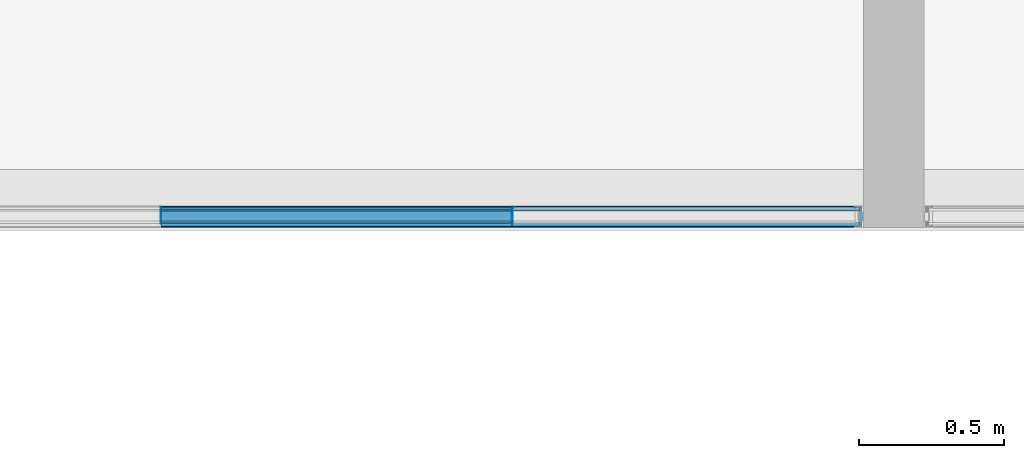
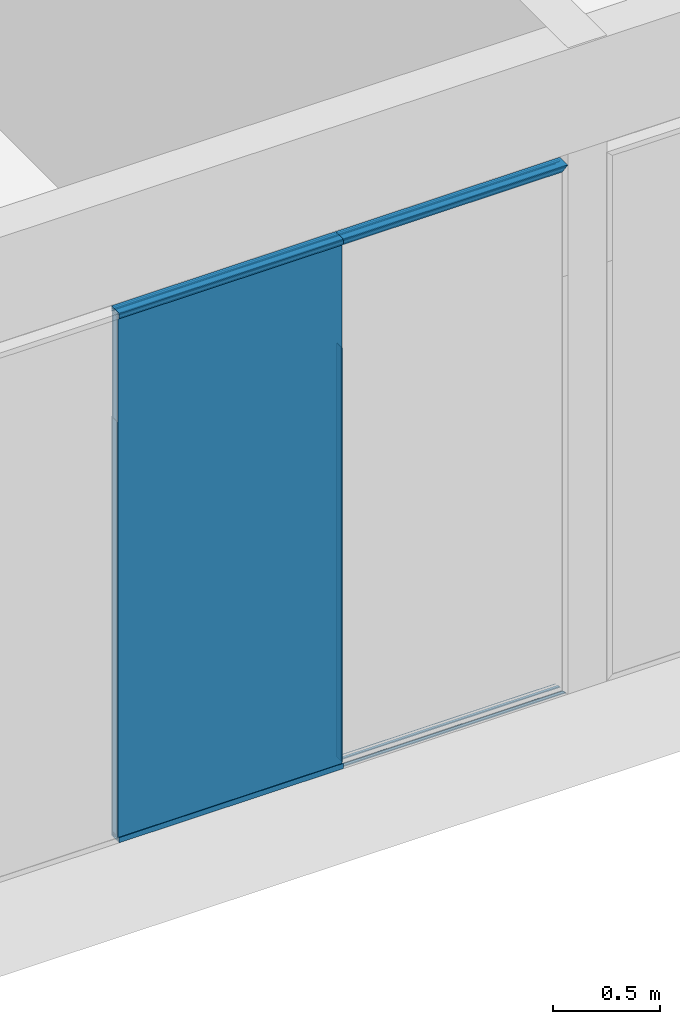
# One storey, part 43 of 387: 13 building element parts, 8 elements without a shape of their own.
"""IFC2X3 building model written with IfcOpenShell, lengths in millimetres."""

import ifcopenshell
import ifcopenshell.guid

model = None  # the IFC model being written
_history = None  # IfcOwnerHistory: only IFC2X3 demands one
_inside = {}  # id of a spatial element -> (the spatial element, [elements in it])
_under = {}  # id of a project, library or spatial element -> (it, [spatial elements below it])
_declared = {}  # id of a project -> (the project, [libraries it declares])
_typed = {}  # id of a type object -> (the type object, [elements of that type])
_made_of = {}  # id of a material, layer set ... -> (it, [elements and type objects made of it])


def new_model(schema):
    """Start an empty IFC model of exactly this schema.

    Asked for "IFC4X3", IfcOpenShell would pick the latest addendum, in which some entities
    have other attributes; the version numbers below select the first issue.
    IFC2X3 requires an IfcOwnerHistory on every rooted entity: one is made here for all.
    """
    global model, _history
    if schema == "IFC4X3":
        model = ifcopenshell.file(schema_version=(4, 3, 0, 0))
    else:
        model = ifcopenshell.file(schema=schema)
    _inside.clear()
    _under.clear()
    _declared.clear()
    _typed.clear()
    _made_of.clear()
    _history = None
    if model.schema == "IFC2X3":
        org = make("IfcOrganization", Name="unknown")
        user = make(
            "IfcPersonAndOrganization",
            ThePerson=make("IfcPerson", FamilyName="unknown"),
            TheOrganization=org,
        )
        app = make(
            "IfcApplication",
            ApplicationDeveloper=org,
            Version="unknown",
            ApplicationFullName="unknown",
            ApplicationIdentifier="unknown",
        )
        _history = make(
            "IfcOwnerHistory",
            OwningUser=user,
            OwningApplication=app,
            ChangeAction="ADDED",
            CreationDate=0,
        )
    return model


def make(cls, **values):
    """One entity of the class cls with the attributes given. An attribute that is None is left unset."""
    return model.create_entity(
        cls, **{name: value for name, value in values.items() if value is not None}
    )


def entity(cls, *values):
    """Any entity or typed value of the class cls, its attributes in the order of the schema. None: left unset."""
    e = model.create_entity(cls)
    for i, value in enumerate(values):
        if value is not None:
            e[i] = value
    return e


def rooted(cls, **values):
    """An entity with a GlobalId (a new one), such as an element, a storey or a relation."""
    return make(cls, GlobalId=ifcopenshell.guid.new(), OwnerHistory=_history, **values)


def si_unit(unit_type, name, prefix=None):
    """IfcSIUnit, for example si_unit("LENGTHUNIT", "METRE", prefix="MILLI")."""
    return make("IfcSIUnit", UnitType=unit_type, Prefix=prefix, Name=name)


def converted_unit(unit_type, name, factor, base, dimensions=None, offset=None):
    """IfcConversionBasedUnit, such as the inch: factor (a typed value) times the base unit."""
    return make(
        "IfcConversionBasedUnit"
        if offset is None
        else "IfcConversionBasedUnitWithOffset",
        ConversionOffset=offset,
        Dimensions=None
        if dimensions is None
        else entity("IfcDimensionalExponents", *dimensions),
        UnitType=unit_type,
        Name=name,
        ConversionFactor=make(
            "IfcMeasureWithUnit", ValueComponent=factor, UnitComponent=base
        ),
    )


def derived_unit(unit_type, elements):
    """IfcDerivedUnit: a product of units, each with its exponent."""
    return make(
        "IfcDerivedUnit",
        Elements=[
            make("IfcDerivedUnitElement", Unit=unit, Exponent=power)
            for unit, power in elements
        ],
        UnitType=unit_type,
    )


def money_unit(currency):
    """IfcMonetaryUnit."""
    return make("IfcMonetaryUnit", Currency=currency)


def assignment(units):
    """IfcUnitAssignment: the units of a project."""
    return None if units is None else make("IfcUnitAssignment", Units=units)


def point(xyz):
    """IfcCartesianPoint."""
    return None if xyz is None else make("IfcCartesianPoint", Coordinates=xyz)


def direction(xyz):
    """IfcDirection."""
    return None if xyz is None else make("IfcDirection", DirectionRatios=xyz)


def frame(location, z_axis=None, x_axis=None):
    """IfcAxis2Placement3D, a coordinate frame: its origin and axes. An axis left out is left unset."""
    return make(
        "IfcAxis2Placement3D",
        Location=point(location),
        Axis=direction(z_axis),
        RefDirection=direction(x_axis),
    )


def origin_with_axes():
    """The frame at (0, 0, 0) with the z axis (0, 0, 1) and the x axis (1, 0, 0) written out."""
    return frame((0.0, 0.0, 0.0), z_axis=(0.0, 0.0, 1.0), x_axis=(1.0, 0.0, 0.0))


def place(relative_to, where):
    """IfcLocalPlacement: puts the frame where relative to a parent placement (None: the world)."""
    return make(
        "IfcLocalPlacement", PlacementRelTo=relative_to, RelativePlacement=where
    )


def context(
    kind, dimensions, precision=None, world=None, true_north=None, identifier=None
):
    """IfcGeometricRepresentationContext, for example the 3D "Model" context."""
    return make(
        "IfcGeometricRepresentationContext",
        ContextIdentifier=identifier,
        ContextType=kind,
        CoordinateSpaceDimension=dimensions,
        Precision=precision,
        WorldCoordinateSystem=world,
        TrueNorth=true_north,
    )


def subcontext(parent, identifier, kind, view, scale=None):
    """IfcGeometricRepresentationSubContext, for example "Body" below "Model"."""
    return make(
        "IfcGeometricRepresentationSubContext",
        ContextIdentifier=identifier,
        ContextType=kind,
        ParentContext=parent,
        TargetScale=scale,
        TargetView=view,
    )


def project(units=None, contexts=None):
    """IfcProject with its units and contexts."""
    return rooted(
        "IfcProject",
        Name="project",
        RepresentationContexts=contexts,
        UnitsInContext=assignment(units),
    )


def spatial(cls, under=None, at=None, **own):
    """A site, building, storey or space (cls), placed at a placement, below another one or the project."""
    s = rooted(cls, ObjectPlacement=at, **own)
    if under is not None:
        _under.setdefault(under.id(), (under, []))[1].append(s)
    return s


def faces_of(points, faces, orient=None, outer=None):
    """IfcFace entities. A face is a list of loops; a loop is a list of indices into points, from 0.

    orient and outer hold one flag for each loop. By default every Orientation is true, the
    first loop of a face is its IfcFaceOuterBound and the others are IfcFaceBound.
    """
    made = []
    for i, loops in enumerate(faces):
        bounds = []
        for j, loop in enumerate(loops):
            is_outer = j == 0 if outer is None else outer[i][j]
            bounds.append(
                make(
                    "IfcFaceOuterBound" if is_outer else "IfcFaceBound",
                    Bound=make("IfcPolyLoop", Polygon=[points[k] for k in loop]),
                    Orientation=True if orient is None else orient[i][j],
                )
            )
        made.append(make("IfcFace", Bounds=bounds))
    return made


def faceted_brep(points, faces, orient=None, outer=None, voids=None):
    """IfcFacetedBrep: a solid bounded by flat faces; with voids (closed shells), ...WithVoids."""
    shared = [point(p) for p in points]
    hull = make("IfcClosedShell", CfsFaces=faces_of(shared, faces, orient, outer))
    if voids is None:
        return make("IfcFacetedBrep", Outer=hull)
    return make(
        "IfcFacetedBrepWithVoids",
        Outer=hull,
        Voids=[
            make(cls, CfsFaces=faces_of(shared, fs, o, b)) for cls, fs, o, b in voids
        ],
    )


def shape(context_of_items, identifier, shape_type, items):
    """IfcShapeRepresentation: the items that make up one representation, for example the "Body"."""
    return make(
        "IfcShapeRepresentation",
        ContextOfItems=context_of_items,
        RepresentationIdentifier=identifier,
        RepresentationType=shape_type,
        Items=items,
    )


def source(mapping_origin, context_of_items, identifier, shape_type, items):
    """IfcRepresentationMap: a shape defined once, which mapped items show again and again."""
    return make(
        "IfcRepresentationMap",
        MappingOrigin=mapping_origin,
        MappedRepresentation=shape(context_of_items, identifier, shape_type, items),
    )


def transform(
    local_origin,
    x_axis=None,
    y_axis=None,
    z_axis=None,
    scale=None,
    scale2=None,
    scale3=None,
    uniform=True,
):
    """IfcCartesianTransformationOperator3D, or its non-uniform kind. x_axis, y_axis, z_axis: its Axis1, 2, 3."""
    if uniform:
        return make(
            "IfcCartesianTransformationOperator3D",
            Axis1=direction(x_axis),
            Axis2=direction(y_axis),
            LocalOrigin=point(local_origin),
            Scale=scale,
            Axis3=direction(z_axis),
        )
    return make(
        "IfcCartesianTransformationOperator3DnonUniform",
        Axis1=direction(x_axis),
        Axis2=direction(y_axis),
        LocalOrigin=point(local_origin),
        Scale=scale,
        Axis3=direction(z_axis),
        Scale2=scale2,
        Scale3=scale3,
    )


def mapped(mapping_source, mapping_target):
    """IfcMappedItem: shows the shape of a source again, moved by a transform."""
    return make(
        "IfcMappedItem", MappingSource=mapping_source, MappingTarget=mapping_target
    )


def material(Name=None, Category=None):
    """IfcMaterial."""
    return make("IfcMaterial", Name=Name, Category=Category)


def made_of(thing, what):
    """Note that an element or type object is made of a material, layer set ...; save() writes the relation."""
    if what is not None:
        _made_of.setdefault(what.id(), (what, []))[1].append(thing)
    return thing


def type_object(cls, material=None, **own):
    """A type object (cls), such as IfcWallType, which elements share."""
    return made_of(rooted(cls, **own), material)


def element(
    cls,
    number,
    at=None,
    inside=None,
    cuts=None,
    type_object=None,
    material=None,
    context=None,
    identifier="Body",
    shape_type=None,
    held_by="IfcProductDefinitionShape",
    body=None,
    shapes=None,
    **own,
):
    """One element of the class cls, such as IfcWall. Its Tag is "e" and its number.

    at: its placement. inside: the storey or other place that contains it. cuts: it is an
    opening in that element (IfcRelVoidsElement). A single representation is given by context,
    identifier, shape_type and body (its items); several are given by shapes. held_by: the class
    of the entity that holds the representations. save() writes the other relations.
    """
    e = rooted(cls, Tag="e%d" % number, ObjectPlacement=at, **own)
    if body is not None:
        shapes = [shape(context, identifier, shape_type, body)]
    if shapes is not None:
        e.Representation = make(held_by, Representations=shapes)
    if inside is not None:
        _inside.setdefault(inside.id(), (inside, []))[1].append(e)
    if cuts is not None:
        rooted(
            "IfcRelVoidsElement", RelatingBuildingElement=cuts, RelatedOpeningElement=e
        )
    if type_object is not None:
        _typed.setdefault(type_object.id(), (type_object, []))[1].append(e)
    return made_of(e, material)


def aggregate(whole, parts):
    """IfcRelAggregates: a whole, such as a stair, and the parts it consists of."""
    return rooted("IfcRelAggregates", RelatingObject=whole, RelatedObjects=parts)


def save(model, path):
    """Write the relations noted so far, then the file.

    IfcRelAggregates (storeys below a building ...), IfcRelContainedInSpatialStructure (elements
    in a storey), IfcRelDefinesByType, IfcRelAssociatesMaterial and IfcRelDeclares: one each for
    every whole, place, type object, material and project.
    """
    for whole, parts in _under.values():
        aggregate(whole, parts)
    for where, things in _inside.values():
        rooted(
            "IfcRelContainedInSpatialStructure",
            RelatedElements=things,
            RelatingStructure=where,
        )
    for kind, things in _typed.values():
        rooted("IfcRelDefinesByType", RelatedObjects=things, RelatingType=kind)
    for what, things in _made_of.values():
        rooted("IfcRelAssociatesMaterial", RelatedObjects=things, RelatingMaterial=what)
    for by, libraries in _declared.values():
        rooted("IfcRelDeclares", RelatingContext=by, RelatedDefinitions=libraries)
    model.write(path)


model = new_model("IFC2X3")

# Units and contexts
model_context = context("Model", 3, precision=0.01, world=origin_with_axes(), true_north=direction((0.0, 1.0)))
body_context = subcontext(model_context, "Body", "Model", "MODEL_VIEW")
ifc_project = project(units=[si_unit("LENGTHUNIT", "METRE", prefix="MILLI"), si_unit("AREAUNIT", "SQUARE_METRE"), si_unit("VOLUMEUNIT", "CUBIC_METRE"), converted_unit("PLANEANGLEUNIT", "DEGREE", entity("IfcPlaneAngleMeasure", 0.0174532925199), si_unit("PLANEANGLEUNIT", "RADIAN"), dimensions=[0, 0, 0, 0, 0, 0, 0]), si_unit("SOLIDANGLEUNIT", "STERADIAN"), money_unit("EUR"), converted_unit("TIMEUNIT", "Year", entity("IfcTimeMeasure", 31556926.0), si_unit("TIMEUNIT", "SECOND"), dimensions=[0, 0, 1, 0, 0, 0, 0]), si_unit("MASSUNIT", "GRAM", prefix="KILO"), si_unit("THERMODYNAMICTEMPERATUREUNIT", "DEGREE_CELSIUS"), si_unit("LUMINOUSINTENSITYUNIT", "LUMEN"), si_unit("ENERGYUNIT", "JOULE", prefix="MEGA"), derived_unit("THERMALCONDUCTANCEUNIT", [(si_unit("POWERUNIT", "WATT"), 1), (si_unit("LENGTHUNIT", "METRE"), -1), (si_unit("THERMODYNAMICTEMPERATUREUNIT", "KELVIN"), -1)]), derived_unit("SPECIFICHEATCAPACITYUNIT", [(si_unit("ENERGYUNIT", "JOULE"), 1), (si_unit("MASSUNIT", "GRAM", prefix="KILO"), -1), (si_unit("THERMODYNAMICTEMPERATUREUNIT", "KELVIN"), -1)]), derived_unit("MASSDENSITYUNIT", [(si_unit("MASSUNIT", "GRAM", prefix="KILO"), 1), (si_unit("VOLUMEUNIT", "CUBIC_METRE"), -1)])], contexts=[model_context])

# Site, building, storey
site_placement = place(None, origin_with_axes())
site = spatial("IfcSite", under=ifc_project, at=site_placement, Name="Puškini 31, Narva", CompositionType="ELEMENT")
building_placement = place(site_placement, origin_with_axes())
building = spatial("IfcBuilding", under=site, at=building_placement, Name="Narva Riigigümnaasium", CompositionType="ELEMENT")
storey_placement = place(building_placement, frame((0.0, 0.0, 2640.0), z_axis=(0.0, 0.0, 1.0), x_axis=(1.0, 0.0, 0.0)))
storey = spatial("IfcBuildingStorey", under=building, at=storey_placement, Name="2.korrus +2.64", CompositionType="ELEMENT", Elevation=2640.0)

# Curtain wall, members, building element parts, plate
curtain_wall_type = type_object("IfcCurtainWallType", Name="Curtain Wall Type", PredefinedType="NOTDEFINED")
curtain_wall_placement = place(storey_placement, frame((37052.5000014, 163542.000002, -0.000124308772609), z_axis=(0.0, 0.0, 1.0), x_axis=(1.0, 0.0, 0.0)))
curtain_wall = element("IfcCurtainWall", 1, at=curtain_wall_placement, inside=storey, type_object=curtain_wall_type, Name="G-SKLF-48")
member_type_1 = type_object("IfcMemberType", Name="Siseklaasfassaad - Raam n2htamatu 3 x 29", PredefinedType="MULLION")
member_1_placement = place(curtain_wall_placement, frame((607.5, 0.0, 0.0), z_axis=(0.0, 0.0, 1.0), x_axis=(-1.0, 0.0, 0.0)))
member_1 = element("IfcMember", 2, at=member_1_placement, type_object=member_type_1, Name="Frame-Siseklaasf-073", ObjectType="MULLION")
ifc_material_1 = material(Name="Klaas")
shared_shape_1 = source(origin_with_axes(), body_context, "Body", "Brep", [
    faceted_brep([(-1.5000138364, 20.0064497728, 30.0000193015), (1.4999861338, 20.0064497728, 30.0000193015), (1.4999861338, 20.0064497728, 2400.00012431), (-1.5000138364, 20.0064497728, 2400.00012431), (-1.5000138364, 29.0064496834, 30.0000193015), (1.4999861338, 29.0064496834, 30.0000193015), (1.4999861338, 29.0064496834, 2400.00012431), (-1.5000138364, 29.0064496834, 2400.00012431)], [[[0, 1, 2, 3]], [[1, 0, 4, 5]], [[1, 5, 6, 2]], [[2, 6, 7, 3]], [[4, 0, 3, 7]], [[5, 4, 7, 6]]]),
    faceted_brep([(1.4999861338, -28.9935503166, 30.0000193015), (1.4999861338, -19.993550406, 30.0000193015), (1.4999861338, -19.993550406, 2400.00012431), (1.4999861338, -28.9935503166, 2400.00012431), (-1.5000138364, -28.9935503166, 30.0000193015), (-1.5000138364, -19.993550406, 30.0000193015), (-1.5000138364, -19.993550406, 2400.00012431), (-1.5000138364, -28.9935503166, 2400.00012431)], [[[0, 1, 2, 3]], [[1, 0, 4, 5]], [[1, 5, 6, 2]], [[2, 6, 7, 3]], [[4, 0, 3, 7]], [[5, 4, 7, 6]]]),
])
building_element_part_1_placement = place(member_1_placement, origin_with_axes())
building_element_part_1 = element("IfcBuildingElementPart", 3, at=building_element_part_1_placement, material=ifc_material_1, Name="Klaas", context=body_context, shape_type="MappedRepresentation", body=[
    mapped(shared_shape_1, transform((0.0, 0.0, 0.0), x_axis=(-1.0, 0.0, 0.0), y_axis=(0.0, -1.0, 0.0), z_axis=(0.0, 0.0, 1.0))),
])
member_2_placement = place(curtain_wall_placement, frame((1822.5, 0.0, 0.0), z_axis=(0.0, 0.0, 1.0), x_axis=(-1.0, 0.0, 0.0)))
member_2 = element("IfcMember", 4, at=member_2_placement, type_object=member_type_1, Name="Frame-Siseklaasf-083", ObjectType="MULLION")
building_element_part_2_placement = place(member_2_placement, origin_with_axes())
building_element_part_2 = element("IfcBuildingElementPart", 5, at=building_element_part_2_placement, material=ifc_material_1, Name="Klaas", context=body_context, shape_type="MappedRepresentation", body=[
    mapped(shared_shape_1, transform((0.0, 0.0, 0.0), x_axis=(-1.0, 0.0, 0.0), y_axis=(0.0, -1.0, 0.0), z_axis=(0.0, 0.0, 1.0))),
])
ifc_material_2 = material(Name="VKR-06_Õhkvahe")
shared_shape_2 = source(origin_with_axes(), body_context, "Body", "Brep", [
    faceted_brep([(1.4999861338, -19.9935503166, 30.0000193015), (1.4999861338, 20.0064496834, 30.0000193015), (1.4999861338, 20.0064496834, 2400.00012431), (1.4999861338, -19.9935503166, 2400.00012431), (-1.5000138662, -19.9935503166, 30.0000193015), (-1.5000138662, 20.0064496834, 30.0000193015), (-1.5000138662, 20.0064496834, 2400.00012431), (-1.5000138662, -19.9935503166, 2400.00012431)], [[[0, 1, 2, 3]], [[1, 0, 4, 5]], [[1, 5, 6, 2]], [[2, 6, 7, 3]], [[4, 0, 3, 7]], [[5, 4, 7, 6]]]),
])
building_element_part_3_placement = place(member_1_placement, origin_with_axes())
building_element_part_3 = element("IfcBuildingElementPart", 6, at=building_element_part_3_placement, material=ifc_material_2, Name="VKR-06_Õhkvahe", context=body_context, shape_type="MappedRepresentation", body=[
    mapped(shared_shape_2, transform((0.0, 0.0, 0.0), x_axis=(-1.0, 0.0, 0.0), y_axis=(0.0, -1.0, 0.0), z_axis=(0.0, 0.0, 1.0))),
])
aggregate(member_1, [building_element_part_1, building_element_part_3])
building_element_part_4_placement = place(member_2_placement, origin_with_axes())
building_element_part_4 = element("IfcBuildingElementPart", 7, at=building_element_part_4_placement, material=ifc_material_2, Name="VKR-06_Õhkvahe", context=body_context, shape_type="MappedRepresentation", body=[
    mapped(shared_shape_2, transform((0.0, 0.0, 0.0), x_axis=(-1.0, 0.0, 0.0), y_axis=(0.0, -1.0, 0.0), z_axis=(0.0, 0.0, 1.0))),
])
aggregate(member_2, [building_element_part_2, building_element_part_4])
member_type_2 = type_object("IfcMemberType", Name="Boundary Frame 30 x 42", PredefinedType="MULLION")
member_3_placement = place(curtain_wall_placement, frame((1822.5, 0.0, 3030.00007225), z_axis=(-1.0, 0.0, 0.0), x_axis=(0.0, 0.0, -1.0)))
member_3 = element("IfcMember", 8, at=member_3_placement, type_object=member_type_2, Name="G-SKLF-73-raam", ObjectType="MULLION")
ifc_material_3 = material(Name="Klaasvill")
shared_shape_3 = source(origin_with_axes(), body_context, "Body", "Brep", [
    faceted_brep([(-7.49999990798, 15.000000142, -2.079791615e-07), (-7.49999990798, 15.000000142, 1215.00000021), (-13.8499999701, 15.000000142, 1215.00000021), (-13.8499999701, 15.000000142, -2.079791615e-07), (-7.49999990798, 29.0161444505, -2.079791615e-07), (-7.49999990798, 29.0161444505, 1215.00000021), (-13.8499999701, 29.0161444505, 1215.00000021), (-13.8499999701, 29.0161444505, -2.079791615e-07)], [[[0, 1, 2, 3]], [[4, 5, 1, 0]], [[1, 5, 6, 2]], [[3, 2, 6, 7]], [[0, 3, 7, 4]], [[7, 6, 5, 4]]]),
    faceted_brep([(-24.987414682, 29.0161444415, -2.079791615e-07), (-24.987414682, 29.0161444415, 1215.00000021), (-25.004489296, 27.0307503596, 1215.00000021), (-25.004489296, 27.0307503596, -2.079791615e-07), (-28.5126239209, 29.0161444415, -2.079791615e-07), (-28.5126239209, 29.0161444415, 1215.00000021), (-28.7655837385, 28.0385325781, 1215.00000021), (-28.4955493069, 27.0307503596, 1215.00000021), (-27.75780152, 26.2930025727, 1215.00000021), (-26.7500193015, 26.0229681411, 1215.00000021), (-25.742237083, 26.2930025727, 1215.00000021), (-25.742237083, 26.2930025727, -2.079791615e-07), (-26.7500193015, 26.0229681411, -2.079791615e-07), (-27.75780152, 26.2930025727, -2.079791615e-07), (-28.4955493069, 27.0307503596, -2.079791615e-07), (-28.7655837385, 28.0385325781, -2.079791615e-07)], [[[0, 1, 2, 3]], [[4, 5, 1, 0]], [[1, 5, 6, 7, 8, 9, 10, 2]], [[3, 2, 10, 11]], [[0, 3, 11, 12, 13, 14, 15, 4]], [[15, 6, 5, 4]], [[14, 7, 6, 15]], [[13, 8, 7, 14]], [[12, 9, 8, 13]], [[11, 10, 9, 12]]]),
    faceted_brep([(-7.49999990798, -24.9999997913, -2.079791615e-07), (-7.49999990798, -24.9999997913, 1215.00000021), (-7.49999990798, -39.0161445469, 1215.00000021), (-7.49999990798, -39.0161445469, -2.079791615e-07), (-13.8499999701, -24.9999997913, -2.079791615e-07), (-13.8499999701, -24.9999997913, 1215.00000021), (-13.8499999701, -39.0161445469, 1215.00000021), (-13.8499999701, -39.0161445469, -2.079791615e-07)], [[[0, 1, 2, 3]], [[4, 5, 1, 0]], [[1, 5, 6, 2]], [[3, 2, 6, 7]], [[0, 3, 7, 4]], [[7, 6, 5, 4]]]),
    faceted_brep([(-25.004489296, -37.0307503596, -2.079791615e-07), (-25.004489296, -37.0307503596, 1215.00000021), (-24.987414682, -39.0161444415, 1215.00000021), (-24.987414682, -39.0161444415, -2.079791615e-07), (-25.742237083, -36.2930025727, -2.079791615e-07), (-25.742237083, -36.2930025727, 1215.00000021), (-26.7500193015, -36.0229681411, 1215.00000021), (-27.75780152, -36.2930025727, 1215.00000021), (-28.4955493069, -37.0307503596, 1215.00000021), (-28.7655837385, -38.0385325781, 1215.00000021), (-28.5126239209, -39.0161444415, 1215.00000021), (-28.5126239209, -39.0161444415, -2.079791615e-07), (-28.7655837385, -38.0385325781, -2.079791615e-07), (-28.4955493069, -37.0307503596, -2.079791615e-07), (-27.75780152, -36.2930025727, -2.079791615e-07), (-26.7500193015, -36.0229681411, -2.079791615e-07)], [[[0, 1, 2, 3]], [[4, 5, 1, 0]], [[1, 5, 6, 7, 8, 9, 10, 2]], [[3, 2, 10, 11]], [[0, 3, 11, 12, 13, 14, 15, 4]], [[15, 6, 5, 4]], [[14, 7, 6, 15]], [[13, 8, 7, 14]], [[12, 9, 8, 13]], [[11, 10, 9, 12]]]),
])
building_element_part_5_placement = place(member_3_placement, origin_with_axes())
building_element_part_5 = element("IfcBuildingElementPart", 9, at=building_element_part_5_placement, material=ifc_material_3, Name="Klaasvill", context=body_context, shape_type="MappedRepresentation", body=[
    mapped(shared_shape_3, transform((0.0, 0.0, 0.0), x_axis=(-1.0, 0.0, 0.0), y_axis=(0.0, -1.0, 0.0), z_axis=(0.0, 0.0, 1.0))),
])
member_4_placement = place(curtain_wall_placement, frame((607.5, 0.0, 0.0), z_axis=(1.0, 0.0, 0.0), x_axis=(0.0, 0.0, 1.0)))
member_4 = element("IfcMember", 10, at=member_4_placement, type_object=member_type_2, Name="G-SKLF-68-raam", ObjectType="MULLION")
building_element_part_6_placement = place(member_4_placement, origin_with_axes())
building_element_part_6 = element("IfcBuildingElementPart", 11, at=building_element_part_6_placement, material=ifc_material_3, Name="Klaasvill", context=body_context, shape_type="MappedRepresentation", body=[
    mapped(shared_shape_3, transform((0.0, 0.0, 0.0), x_axis=(-1.0, 0.0, 0.0), y_axis=(0.0, -1.0, 0.0), z_axis=(0.0, 0.0, 1.0))),
])
ifc_material_4 = material(Name="Teras RAL7012")
shared_shape_4 = source(origin_with_axes(), body_context, "Body", "Brep", [
    faceted_brep([(0.0, -22.0000000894, -2.079791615e-07), (0.0, -22.0000000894, 1215.00000021), (-29.5999996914, -22.0000000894, 1215.00000021), (-29.5999996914, -22.0000000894, -2.079791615e-07), (0.0, 12.0000000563, -2.079791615e-07), (0.0, 12.0000000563, 1215.00000021), (-29.5999996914, 12.0000000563, 1215.00000021), (-1.9999999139, 10.0000001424, 1215.00000021), (-1.9999999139, -20.0000001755, 1215.00000021), (-18.7999996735, -20.0000001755, 1215.00000021), (-18.7999996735, 10.0000001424, 1215.00000021), (-29.5999996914, 12.0000000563, -2.079791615e-07), (-1.9999999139, 10.0000001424, -2.079791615e-07), (-18.7999996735, 10.0000001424, -2.079791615e-07), (-18.7999996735, -20.0000001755, -2.079791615e-07), (-1.9999999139, -20.0000001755, -2.079791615e-07)], [[[0, 1, 2, 3]], [[4, 5, 1, 0]], [[1, 5, 6, 2], [7, 8, 9, 10]], [[3, 2, 6, 11]], [[0, 3, 11, 4], [12, 13, 14, 15]], [[11, 6, 5, 4]], [[15, 8, 7, 12]], [[14, 9, 8, 15]], [[13, 10, 9, 14]], [[12, 7, 10, 13]]]),
    faceted_brep([(0.0, 12.0, -2.079791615e-07), (0.0, 12.0, 1215.00000021), (-29.5999996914, 12.0000000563, 1215.00000021), (-29.5999996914, 12.0000000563, -2.079791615e-07), (0.0, 32.0, -2.079791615e-07), (0.0, 32.0, 1215.00000021), (-30.0000193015, 32.0, 1215.00000021), (-30.0000193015, 29.0161444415, 1215.00000021), (-28.5126239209, 29.0161444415, 1215.00000021), (-24.987414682, 29.0161444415, 1215.00000021), (-13.8499999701, 29.0161444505, 1215.00000021), (-7.49999999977, 29.0161444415, 1215.00000021), (-7.49999999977, 15.0, 1215.00000021), (-13.8499999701, 15.000000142, 1215.00000021), (-30.0000193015, 15.0, 1215.00000021), (-30.0000193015, 12.0, 1215.00000021), (-30.0000193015, 12.0, -2.079791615e-07), (-30.0000193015, 15.0, -2.079791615e-07), (-13.8499999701, 15.000000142, -2.079791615e-07), (-7.49999999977, 15.0, -2.079791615e-07), (-7.49999999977, 29.0161444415, -2.079791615e-07), (-13.8499999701, 29.0161444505, -2.079791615e-07), (-24.987414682, 29.0161444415, -2.079791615e-07), (-28.5126239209, 29.0161444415, -2.079791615e-07), (-30.0000193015, 29.0161444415, -2.079791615e-07), (-30.0000193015, 32.0, -2.079791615e-07)], [[[0, 1, 2, 3]], [[4, 5, 1, 0]], [[1, 5, 6, 7, 8, 9, 10, 11, 12, 13, 14, 15, 2]], [[3, 2, 15, 16]], [[0, 3, 16, 17, 18, 19, 20, 21, 22, 23, 24, 25, 4]], [[25, 6, 5, 4]], [[24, 7, 6, 25]], [[23, 8, 7, 24]], [[22, 9, 8, 23]], [[21, 10, 9, 22]], [[20, 11, 10, 21]], [[19, 12, 11, 20]], [[18, 13, 12, 19]], [[17, 14, 13, 18]], [[16, 15, 14, 17]]]),
    faceted_brep([(0.0, -22.0, -2.079791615e-07), (0.0, -22.0, 1215.00000021), (0.0, -42.0, 1215.00000021), (0.0, -42.0, -2.079791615e-07), (-29.5999996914, -22.0000000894, -2.079791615e-07), (-29.5999996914, -22.0000000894, 1215.00000021), (-30.0000193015, -22.0, 1215.00000021), (-30.0000193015, -25.0, 1215.00000021), (-13.8499999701, -24.9999997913, 1215.00000021), (-7.49999999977, -25.0, 1215.00000021), (-7.49999999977, -39.0161444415, 1215.00000021), (-13.8499999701, -39.0161445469, 1215.00000021), (-24.987414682, -39.0161444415, 1215.00000021), (-28.5126239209, -39.0161444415, 1215.00000021), (-30.0000193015, -39.0161444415, 1215.00000021), (-30.0000193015, -42.0, 1215.00000021), (-30.0000193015, -42.0, -2.079791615e-07), (-30.0000193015, -39.0161444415, -2.079791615e-07), (-28.5126239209, -39.0161444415, -2.079791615e-07), (-24.987414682, -39.0161444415, -2.079791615e-07), (-13.8499999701, -39.0161445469, -2.079791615e-07), (-7.49999999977, -39.0161444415, -2.079791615e-07), (-7.49999999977, -25.0, -2.079791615e-07), (-13.8499999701, -24.9999997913, -2.079791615e-07), (-30.0000193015, -25.0, -2.079791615e-07), (-30.0000193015, -22.0, -2.079791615e-07)], [[[0, 1, 2, 3]], [[4, 5, 1, 0]], [[1, 5, 6, 7, 8, 9, 10, 11, 12, 13, 14, 15, 2]], [[3, 2, 15, 16]], [[0, 3, 16, 17, 18, 19, 20, 21, 22, 23, 24, 25, 4]], [[25, 6, 5, 4]], [[24, 7, 6, 25]], [[23, 8, 7, 24]], [[22, 9, 8, 23]], [[21, 10, 9, 22]], [[20, 11, 10, 21]], [[19, 12, 11, 20]], [[18, 13, 12, 19]], [[17, 14, 13, 18]], [[16, 15, 14, 17]]]),
])
building_element_part_7_placement = place(member_3_placement, origin_with_axes())
building_element_part_7 = element("IfcBuildingElementPart", 12, at=building_element_part_7_placement, material=ifc_material_4, Name="Teras RAL7012", context=body_context, shape_type="MappedRepresentation", body=[
    mapped(shared_shape_4, transform((0.0, 0.0, 0.0), x_axis=(-1.0, 0.0, 0.0), y_axis=(0.0, -1.0, 0.0), z_axis=(0.0, 0.0, 1.0))),
])
aggregate(member_3, [building_element_part_5, building_element_part_7])
building_element_part_8_placement = place(member_4_placement, origin_with_axes())
building_element_part_8 = element("IfcBuildingElementPart", 13, at=building_element_part_8_placement, material=ifc_material_4, Name="Teras RAL7012", context=body_context, shape_type="MappedRepresentation", body=[
    mapped(shared_shape_4, transform((0.0, 0.0, 0.0), x_axis=(-1.0, 0.0, 0.0), y_axis=(0.0, -1.0, 0.0), z_axis=(0.0, 0.0, 1.0))),
])
aggregate(member_4, [building_element_part_6, building_element_part_8])
plate_type = type_object("IfcPlateType", Name="Siseklaasfassaad - Klaas 1212 x 615 x 10", PredefinedType="CURTAIN_PANEL")
plate_placement = place(curtain_wall_placement, frame((1215.0, 0.0, 1810.00006552), z_axis=(0.0, 0.0, 1.0), x_axis=(-1.0, 0.0, 0.0)))
plate = element("IfcPlate", 14, at=plate_placement, type_object=plate_type, Name="G-SKLF-48-klaas", ObjectType="CURTAIN_PANEL")
ifc_material_5 = material(Name="VKR-05_Klaas")
shared_shape_5 = source(origin_with_axes(), body_context, "Body", "Brep", [
    faceted_brep([(-1213.50002089, 3015.00006206, -29.0), (-1213.50002089, 3015.00006206, -20.0), (-1.49999198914, 3015.00006206, -20.0), (-1.49999198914, 3015.00006206, -29.0), (-1213.50002089, 15.0000101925, -29.0), (-1213.50002089, 15.0000101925, -20.0), (-1.49999198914, 15.0000101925, -20.0), (-1.49999198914, 15.0000101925, -29.0)], [[[0, 1, 2, 3]], [[4, 5, 1, 0]], [[1, 5, 6, 2]], [[3, 2, 6, 7]], [[0, 3, 7, 4]], [[7, 6, 5, 4]]]),
    faceted_brep([(-1213.50002089, 3015.00006206, 20.0), (-1213.50002089, 3015.00006206, 29.0), (-1.49999198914, 3015.00006206, 29.0), (-1.49999198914, 3015.00006206, 20.0), (-1213.50002089, 15.0000101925, 20.0), (-1213.50002089, 15.0000101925, 29.0), (-1.49999198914, 15.0000101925, 29.0), (-1.49999198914, 15.0000101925, 20.0)], [[[0, 1, 2, 3]], [[4, 5, 1, 0]], [[1, 5, 6, 2]], [[3, 2, 6, 7]], [[0, 3, 7, 4]], [[7, 6, 5, 4]]]),
])
building_element_part_9_placement = place(plate_placement, origin_with_axes())
building_element_part_9 = element("IfcBuildingElementPart", 15, at=building_element_part_9_placement, material=ifc_material_5, Name="VKR-05_Klaas", context=body_context, shape_type="MappedRepresentation", body=[
    mapped(shared_shape_5, transform((607.5, 0.0, -1810.00006552), x_axis=(1.0, 0.0, 0.0), y_axis=(0.0, 0.0, 1.0), z_axis=(0.0, -1.0, 0.0))),
])
shared_shape_6 = source(origin_with_axes(), body_context, "Body", "Brep", [
    faceted_brep([(-1213.50002089, 3015.00006206, -20.0), (-1213.50002089, 3015.00006206, 20.0), (-1.49999198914, 3015.00006206, 20.0), (-1.49999198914, 3015.00006206, -20.0), (-1213.50002089, 15.0000101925, -20.0), (-1213.50002089, 15.0000101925, 20.0), (-1.49999198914, 15.0000101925, 20.0), (-1.49999198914, 15.0000101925, -20.0)], [[[0, 1, 2, 3]], [[4, 5, 1, 0]], [[1, 5, 6, 2]], [[3, 2, 6, 7]], [[0, 3, 7, 4]], [[7, 6, 5, 4]]]),
])
building_element_part_10_placement = place(plate_placement, origin_with_axes())
building_element_part_10 = element("IfcBuildingElementPart", 16, at=building_element_part_10_placement, material=ifc_material_2, Name="VKR-06_Õhkvahe", context=body_context, shape_type="MappedRepresentation", body=[
    mapped(shared_shape_6, transform((607.5, 0.0, -1810.00006552), x_axis=(1.0, 0.0, 0.0), y_axis=(0.0, 0.0, 1.0), z_axis=(0.0, -1.0, 0.0))),
])
aggregate(plate, [building_element_part_9, building_element_part_10])
member_5_placement = place(curtain_wall_placement, frame((1822.5, 0.0, 0.0), z_axis=(1.0, 0.0, 0.0), x_axis=(0.0, 0.0, 1.0)))
member_5 = element("IfcMember", 17, at=member_5_placement, type_object=member_type_2, Name="G-SKLF-69-raam", ObjectType="MULLION")
shared_shape_7 = source(origin_with_axes(), body_context, "Body", "Brep", [
    faceted_brep([(-7.49999990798, 15.000000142, -2.079791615e-07), (-7.49999990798, 15.000000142, 1207.50000009), (-13.8499999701, 15.000000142, 1201.15000003), (-13.8499999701, 15.000000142, -2.079791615e-07), (-7.49999990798, 29.0161444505, -2.079791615e-07), (-7.49999990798, 29.0161444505, 1207.50000009), (-13.8499999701, 29.0161444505, 1201.15000003), (-13.8499999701, 29.0161444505, -2.079791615e-07)], [[[0, 1, 2, 3]], [[4, 5, 1, 0]], [[1, 5, 6, 2]], [[3, 2, 6, 7]], [[0, 3, 7, 4]], [[7, 6, 5, 4]]]),
    faceted_brep([(-24.987414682, 29.0161444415, -2.079791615e-07), (-24.987414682, 29.0161444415, 1190.01258532), (-25.004489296, 27.0307503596, 1189.9955107), (-25.004489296, 27.0307503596, -2.079791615e-07), (-28.5126239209, 29.0161444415, -2.079791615e-07), (-28.5126239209, 29.0161444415, 1186.48737608), (-28.7655837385, 28.0385325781, 1186.23441626), (-28.4955493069, 27.0307503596, 1186.50445069), (-27.75780152, 26.2930025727, 1187.24219848), (-26.7500193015, 26.0229681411, 1188.2499807), (-25.742237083, 26.2930025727, 1189.25776292), (-25.742237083, 26.2930025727, -2.079791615e-07), (-26.7500193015, 26.0229681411, -2.079791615e-07), (-27.75780152, 26.2930025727, -2.079791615e-07), (-28.4955493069, 27.0307503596, -2.079791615e-07), (-28.7655837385, 28.0385325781, -2.079791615e-07)], [[[0, 1, 2, 3]], [[4, 5, 1, 0]], [[1, 5, 6, 7, 8, 9, 10, 2]], [[3, 2, 10, 11]], [[0, 3, 11, 12, 13, 14, 15, 4]], [[15, 6, 5, 4]], [[14, 7, 6, 15]], [[13, 8, 7, 14]], [[12, 9, 8, 13]], [[11, 10, 9, 12]]]),
    faceted_brep([(-7.49999990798, -24.9999997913, -2.079791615e-07), (-7.49999990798, -24.9999997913, 1207.50000009), (-7.49999990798, -39.0161445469, 1207.50000009), (-7.49999990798, -39.0161445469, -2.079791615e-07), (-13.8499999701, -24.9999997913, -2.079791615e-07), (-13.8499999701, -24.9999997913, 1201.15000003), (-13.8499999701, -39.0161445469, 1201.15000003), (-13.8499999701, -39.0161445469, -2.079791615e-07)], [[[0, 1, 2, 3]], [[4, 5, 1, 0]], [[1, 5, 6, 2]], [[3, 2, 6, 7]], [[0, 3, 7, 4]], [[7, 6, 5, 4]]]),
    faceted_brep([(-25.004489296, -37.0307503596, -2.079791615e-07), (-25.004489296, -37.0307503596, 1189.9955107), (-24.987414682, -39.0161444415, 1190.01258532), (-24.987414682, -39.0161444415, -2.079791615e-07), (-25.742237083, -36.2930025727, -2.079791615e-07), (-25.742237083, -36.2930025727, 1189.25776292), (-26.7500193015, -36.0229681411, 1188.2499807), (-27.75780152, -36.2930025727, 1187.24219848), (-28.4955493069, -37.0307503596, 1186.50445069), (-28.7655837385, -38.0385325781, 1186.23441626), (-28.5126239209, -39.0161444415, 1186.48737608), (-28.5126239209, -39.0161444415, -2.079791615e-07), (-28.7655837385, -38.0385325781, -2.079791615e-07), (-28.4955493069, -37.0307503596, -2.079791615e-07), (-27.75780152, -36.2930025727, -2.079791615e-07), (-26.7500193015, -36.0229681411, -2.079791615e-07)], [[[0, 1, 2, 3]], [[4, 5, 1, 0]], [[1, 5, 6, 7, 8, 9, 10, 2]], [[3, 2, 10, 11]], [[0, 3, 11, 12, 13, 14, 15, 4]], [[15, 6, 5, 4]], [[14, 7, 6, 15]], [[13, 8, 7, 14]], [[12, 9, 8, 13]], [[11, 10, 9, 12]]]),
])
building_element_part_11_placement = place(member_5_placement, origin_with_axes())
building_element_part_11 = element("IfcBuildingElementPart", 18, at=building_element_part_11_placement, material=ifc_material_3, Name="Klaasvill", context=body_context, shape_type="MappedRepresentation", body=[
    mapped(shared_shape_7, transform((0.0, 0.0, 0.0), x_axis=(-1.0, 0.0, 0.0), y_axis=(0.0, -1.0, 0.0), z_axis=(0.0, 0.0, 1.0))),
])
aggregate(member_5, [building_element_part_11])
member_6_placement = place(curtain_wall_placement, frame((3037.5, 0.0, 3030.0000891), z_axis=(-1.0, 0.0, -1.38652688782e-08), x_axis=(1.38652688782e-08, 0.0, -1.0)))
member_6 = element("IfcMember", 19, at=member_6_placement, type_object=member_type_2, Name="G-SKLF-72-raam", ObjectType="MULLION")
aggregate(curtain_wall, [member_3, member_6, member_1, member_2, member_4, member_5, plate])
shared_shape_8 = source(origin_with_axes(), body_context, "Body", "Brep", [
    faceted_brep([(-13.8499999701, 15.000000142, 13.8500001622), (-7.49999990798, 15.000000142, 7.50000001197), (-7.49999990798, 15.000000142, 1215.00000021), (-13.8499999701, 15.000000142, 1215.00000021), (-13.8499999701, 29.0161444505, 13.8500001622), (-7.49999990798, 29.0161444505, 7.50000001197), (-7.49999990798, 29.0161444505, 1215.00000021), (-13.8499999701, 29.0161444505, 1215.00000021)], [[[0, 1, 2, 3]], [[1, 0, 4, 5]], [[1, 5, 6, 2]], [[2, 6, 7, 3]], [[4, 0, 3, 7]], [[5, 4, 7, 6]]]),
    faceted_brep([(-25.004489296, 27.0307503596, 25.0044896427), (-24.987414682, 29.0161444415, 24.9874150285), (-24.987414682, 29.0161444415, 1215.00000021), (-25.004489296, 27.0307503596, 1215.00000021), (-25.742237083, 26.2930025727, 25.7422374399), (-26.7500193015, 26.0229681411, 26.7500196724), (-27.75780152, 26.2930025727, 27.7578019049), (-28.4955493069, 27.0307503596, 28.495549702), (-28.7655837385, 28.0385325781, 28.7655841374), (-28.5126239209, 29.0161444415, 28.5126243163), (-28.5126239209, 29.0161444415, 1215.00000021), (-28.7655837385, 28.0385325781, 1215.00000021), (-28.4955493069, 27.0307503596, 1215.00000021), (-27.75780152, 26.2930025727, 1215.00000021), (-26.7500193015, 26.0229681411, 1215.00000021), (-25.742237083, 26.2930025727, 1215.00000021)], [[[0, 1, 2, 3]], [[1, 0, 4, 5, 6, 7, 8, 9]], [[1, 9, 10, 2]], [[2, 10, 11, 12, 13, 14, 15, 3]], [[4, 0, 3, 15]], [[5, 4, 15, 14]], [[6, 5, 14, 13]], [[7, 6, 13, 12]], [[8, 7, 12, 11]], [[9, 8, 11, 10]]]),
    faceted_brep([(-7.49999990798, -39.0161445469, 7.50000001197), (-7.49999990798, -24.9999997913, 7.50000001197), (-7.49999990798, -24.9999997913, 1215.00000021), (-7.49999990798, -39.0161445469, 1215.00000021), (-13.8499999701, -39.0161445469, 13.8500001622), (-13.8499999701, -24.9999997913, 13.8500001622), (-13.8499999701, -24.9999997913, 1215.00000021), (-13.8499999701, -39.0161445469, 1215.00000021)], [[[0, 1, 2, 3]], [[1, 0, 4, 5]], [[1, 5, 6, 2]], [[2, 6, 7, 3]], [[4, 0, 3, 7]], [[5, 4, 7, 6]]]),
    faceted_brep([(-24.987414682, -39.0161444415, 24.9874150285), (-25.004489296, -37.0307503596, 25.0044896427), (-25.004489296, -37.0307503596, 1215.00000021), (-24.987414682, -39.0161444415, 1215.00000021), (-28.5126239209, -39.0161444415, 28.5126243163), (-28.7655837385, -38.0385325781, 28.7655841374), (-28.4955493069, -37.0307503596, 28.495549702), (-27.75780152, -36.2930025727, 27.7578019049), (-26.7500193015, -36.0229681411, 26.7500196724), (-25.742237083, -36.2930025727, 25.7422374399), (-25.742237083, -36.2930025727, 1215.00000021), (-26.7500193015, -36.0229681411, 1215.00000021), (-27.75780152, -36.2930025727, 1215.00000021), (-28.4955493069, -37.0307503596, 1215.00000021), (-28.7655837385, -38.0385325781, 1215.00000021), (-28.5126239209, -39.0161444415, 1215.00000021)], [[[0, 1, 2, 3]], [[1, 0, 4, 5, 6, 7, 8, 9]], [[1, 9, 10, 2]], [[2, 10, 11, 12, 13, 14, 15, 3]], [[4, 0, 3, 15]], [[5, 4, 15, 14]], [[6, 5, 14, 13]], [[7, 6, 13, 12]], [[8, 7, 12, 11]], [[9, 8, 11, 10]]]),
])
building_element_part_12_placement = place(member_6_placement, origin_with_axes())
building_element_part_12 = element("IfcBuildingElementPart", 20, at=building_element_part_12_placement, material=ifc_material_3, Name="Klaasvill", context=body_context, shape_type="MappedRepresentation", body=[
    mapped(shared_shape_8, transform((0.0, 0.0, 0.0), x_axis=(-1.0, 0.0, -1.38652688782e-08), y_axis=(0.0, -1.0, 0.0), z_axis=(-1.38652688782e-08, 0.0, 1.0))),
])
shared_shape_9 = source(origin_with_axes(), body_context, "Body", "Brep", [
    faceted_brep([(-29.5999996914, -22.0000000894, 29.6000001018), (0.0, -22.0000000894, 0.0), (0.0, -22.0000000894, 1215.00000021), (-29.5999996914, -22.0000000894, 1215.00000021), (-29.5999996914, 12.0000000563, 29.6000001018), (0.0, 12.0000000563, 0.0), (-1.9999999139, 10.0000001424, 1.99999994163), (-18.7999996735, 10.0000001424, 18.7999999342), (-18.7999996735, -20.0000001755, 18.7999999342), (-1.9999999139, -20.0000001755, 1.99999994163), (0.0, 12.0000000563, 1215.00000021), (-29.5999996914, 12.0000000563, 1215.00000021), (-1.9999999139, 10.0000001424, 1215.00000021), (-1.9999999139, -20.0000001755, 1215.00000021), (-18.7999996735, -20.0000001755, 1215.00000021), (-18.7999996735, 10.0000001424, 1215.00000021)], [[[0, 1, 2, 3]], [[1, 0, 4, 5], [6, 7, 8, 9]], [[1, 5, 10, 2]], [[2, 10, 11, 3], [12, 13, 14, 15]], [[4, 0, 3, 11]], [[5, 4, 11, 10]], [[7, 6, 12, 15]], [[8, 7, 15, 14]], [[9, 8, 14, 13]], [[6, 9, 13, 12]]]),
    faceted_brep([(-29.5999996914, 12.0000000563, 29.6000001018), (0.0, 12.0, 0.0), (0.0, 12.0, 1215.00000021), (-29.5999996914, 12.0000000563, 1215.00000021), (-30.0000193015, 12.0, 30.0000197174), (-30.0000193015, 15.0, 30.0000197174), (-13.8499999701, 15.000000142, 13.8500001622), (-7.49999999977, 15.0, 7.50000010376), (-7.49999999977, 29.0161444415, 7.50000010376), (-13.8499999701, 29.0161444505, 13.8500001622), (-24.987414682, 29.0161444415, 24.9874150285), (-28.5126239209, 29.0161444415, 28.5126243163), (-30.0000193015, 29.0161444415, 30.0000197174), (-30.0000193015, 32.0, 30.0000197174), (0.0, 32.0, 0.0), (0.0, 32.0, 1215.00000021), (-30.0000193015, 32.0, 1215.00000021), (-30.0000193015, 29.0161444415, 1215.00000021), (-28.5126239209, 29.0161444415, 1215.00000021), (-24.987414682, 29.0161444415, 1215.00000021), (-13.8499999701, 29.0161444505, 1215.00000021), (-7.49999999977, 29.0161444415, 1215.00000021), (-7.49999999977, 15.0, 1215.00000021), (-13.8499999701, 15.000000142, 1215.00000021), (-30.0000193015, 15.0, 1215.00000021), (-30.0000193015, 12.0, 1215.00000021)], [[[0, 1, 2, 3]], [[1, 0, 4, 5, 6, 7, 8, 9, 10, 11, 12, 13, 14]], [[1, 14, 15, 2]], [[2, 15, 16, 17, 18, 19, 20, 21, 22, 23, 24, 25, 3]], [[4, 0, 3, 25]], [[5, 4, 25, 24]], [[6, 5, 24, 23]], [[7, 6, 23, 22]], [[8, 7, 22, 21]], [[9, 8, 21, 20]], [[10, 9, 20, 19]], [[11, 10, 19, 18]], [[12, 11, 18, 17]], [[13, 12, 17, 16]], [[14, 13, 16, 15]]]),
    faceted_brep([(0.0, -42.0, 0.0), (0.0, -22.0, 0.0), (0.0, -22.0, 1215.00000021), (0.0, -42.0, 1215.00000021), (-30.0000193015, -42.0, 30.0000197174), (-30.0000193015, -39.0161444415, 30.0000197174), (-28.5126239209, -39.0161444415, 28.5126243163), (-24.987414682, -39.0161444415, 24.9874150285), (-13.8499999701, -39.0161445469, 13.8500001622), (-7.49999999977, -39.0161444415, 7.50000010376), (-7.49999999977, -25.0, 7.50000010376), (-13.8499999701, -24.9999997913, 13.8500001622), (-30.0000193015, -25.0, 30.0000197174), (-30.0000193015, -22.0, 30.0000197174), (-29.5999996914, -22.0000000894, 29.6000001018), (-29.5999996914, -22.0000000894, 1215.00000021), (-30.0000193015, -22.0, 1215.00000021), (-30.0000193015, -25.0, 1215.00000021), (-13.8499999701, -24.9999997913, 1215.00000021), (-7.49999999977, -25.0, 1215.00000021), (-7.49999999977, -39.0161444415, 1215.00000021), (-13.8499999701, -39.0161445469, 1215.00000021), (-24.987414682, -39.0161444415, 1215.00000021), (-28.5126239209, -39.0161444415, 1215.00000021), (-30.0000193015, -39.0161444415, 1215.00000021), (-30.0000193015, -42.0, 1215.00000021)], [[[0, 1, 2, 3]], [[1, 0, 4, 5, 6, 7, 8, 9, 10, 11, 12, 13, 14]], [[1, 14, 15, 2]], [[2, 15, 16, 17, 18, 19, 20, 21, 22, 23, 24, 25, 3]], [[4, 0, 3, 25]], [[5, 4, 25, 24]], [[6, 5, 24, 23]], [[7, 6, 23, 22]], [[8, 7, 22, 21]], [[9, 8, 21, 20]], [[10, 9, 20, 19]], [[11, 10, 19, 18]], [[12, 11, 18, 17]], [[13, 12, 17, 16]], [[14, 13, 16, 15]]]),
])
building_element_part_13_placement = place(member_6_placement, origin_with_axes())
building_element_part_13 = element("IfcBuildingElementPart", 21, at=building_element_part_13_placement, material=ifc_material_4, Name="Teras RAL7012", context=body_context, shape_type="MappedRepresentation", body=[
    mapped(shared_shape_9, transform((0.0, 0.0, 0.0), x_axis=(-1.0, 0.0, -1.38652688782e-08), y_axis=(0.0, -1.0, 0.0), z_axis=(-1.38652688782e-08, 0.0, 1.0))),
])
aggregate(member_6, [building_element_part_12, building_element_part_13])

save(model, "model.ifc")
